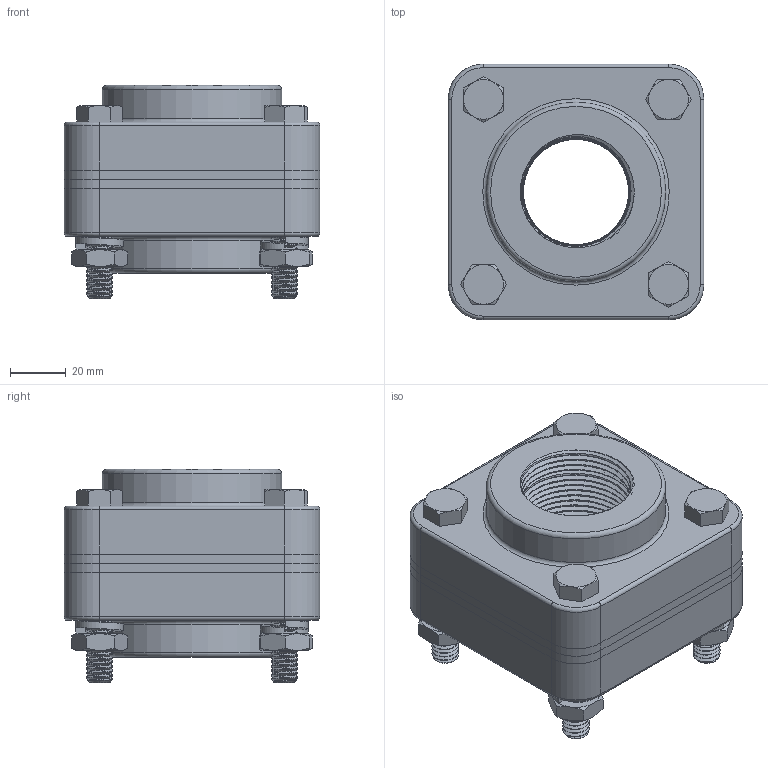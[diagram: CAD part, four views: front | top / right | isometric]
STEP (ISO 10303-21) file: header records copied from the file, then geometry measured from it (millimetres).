
FILE_DESCRIPTION(/* description */ ('Alibre Inc.'),/* implementation_level */ '2;1');
FILE_NAME(/* name */ 'export0',/* time_stamp */ '2017-09-08T11:50:58-04:00',/* author */ (''),/* organization */ (''),/* preprocessor_version */ 'ST-DEVELOPER v14',/* originating_system */ 'Alibre',/* authorisation */ '');
FILE_SCHEMA (('CONFIG_CONTROL_DESIGN'));
Products named in the file (6): ID_2; ID_1; ID_3; ID_4
Bounding box: 91.95 x 91.95 x 76.72 mm (x, y, z)
Volume: 351537.7 mm3; surface area: 106900.6 mm2
Topology: 16 solids, 16 shells, 586 faces, 1508 edges, 962 vertices
Faces by surface type: cylinder 228, cone 206, plane 104, bspline 36, torus 12
Full cylindrical faces by diameter (mm): 7.62 x8, 10.49 x8, 51.562 x2, 64.516 x2
Entity records: 53639 total; most frequent: CARTESIAN_POINT 48592, ORIENTED_EDGE 962, DIRECTION 738, EDGE_CURVE 481, VERTEX_POINT 316, AXIS2_PLACEMENT_3D 316, EDGE_LOOP 227, FACE_BOUND 227
